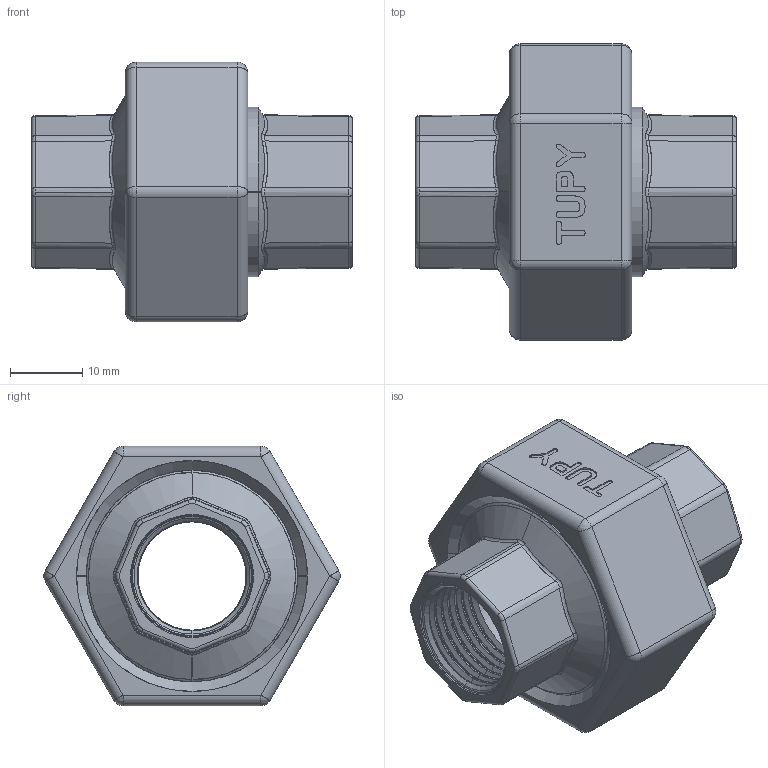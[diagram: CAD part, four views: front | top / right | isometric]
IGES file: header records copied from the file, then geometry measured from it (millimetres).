
Start section: SolidWorks IGES file using analytic representation for surfaces
Global section: file name: C:\Users\Joel Rosa\Desktop\Tubulação\12-63-X\12-63-003.IGS; native system: SolidWorks 2011; preprocessor: SolidWorks 2011; author: Joel Rosa; date: 130721.150236; units: millimetre
Bounding box: 44.5 x 41.11 x 36 mm (x, y, z)
Surface area: 13884.1 mm2 (no closed solid volume)
Topology: 0 solids, 0 shells, 524 faces, 4152 edges, 4144 vertices
Faces by surface type: bspline 325, revolution 199
